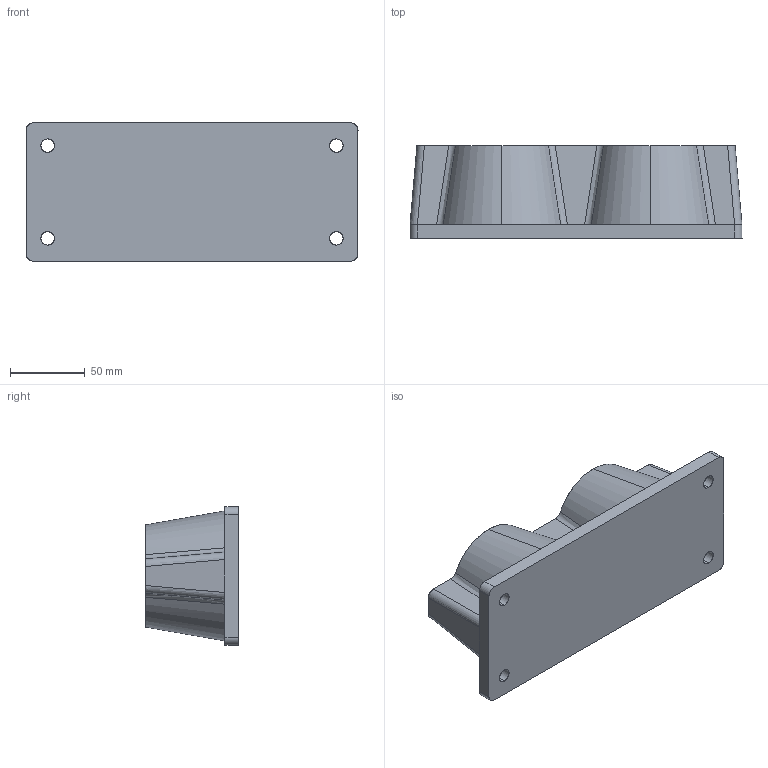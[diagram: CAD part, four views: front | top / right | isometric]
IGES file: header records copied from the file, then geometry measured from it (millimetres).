
Start section: SolidWorks IGES file using analytic representation for surfaces
Global section: file name: C:\Solidworks\omat tuotteet\Space charge models\Multigate\halkeavat\IGES\100074.IGS; native system: SolidWorks 2016; preprocessor: SolidWorks 2016; author: joni.lehtonen; date: 160215.103304; units: millimetre
Bounding box: 222 x 62 x 92.5 mm (x, y, z)
Surface area: 72722.3 mm2 (no closed solid volume)
Topology: 0 solids, 0 shells, 46 faces, 908 edges, 908 vertices
Faces by surface type: bspline 24, revolution 22
